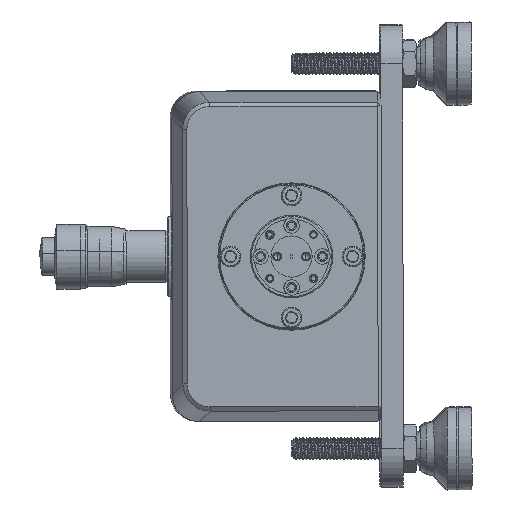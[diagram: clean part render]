
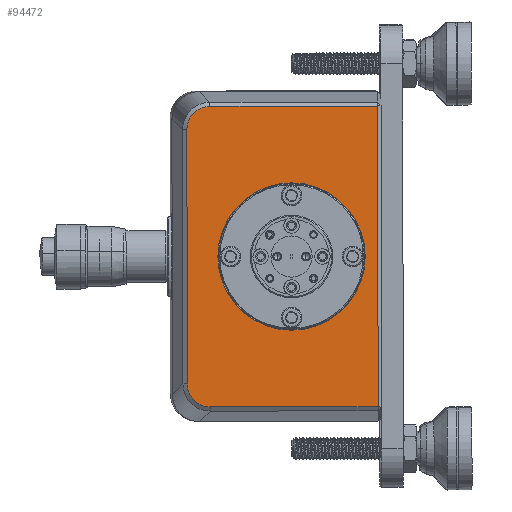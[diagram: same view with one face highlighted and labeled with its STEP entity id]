
A CAD part, left-side view. The second image highlights one B-rep face of the part: STEP entity #94472.
In plain terms, the highlighted planar face has unit normal (-1, -0.002, -0.001).
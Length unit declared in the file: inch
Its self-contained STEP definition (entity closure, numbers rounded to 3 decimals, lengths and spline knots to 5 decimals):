
#3372 = CARTESIAN_POINT ( 'NONE',  ( -3.34267, -7.61784, -1.98819 ) ) ;
#3522 = CARTESIAN_POINT ( 'NONE',  ( -3.34394, -7.4802, 0.04671 ) ) ;
#5768 = EDGE_CURVE ( 'NONE', #33444, #37405, #110016, .T. ) ;
#12760 = DIRECTION ( 'NONE',  ( -0.001, 0.001, 1. ) ) ;
#13592 = CARTESIAN_POINT ( 'NONE',  ( -3.34504, -6.76862, 0.01956 ) ) ;
#15231 = FACE_OUTER_BOUND ( 'NONE', #142939, .T. ) ;
#15485 = AXIS2_PLACEMENT_3D ( 'NONE', #53995, #43103, #142487 ) ;
#16901 = CARTESIAN_POINT ( 'NONE',  ( -3.34511, -6.70695, -0.03451 ) ) ;
#21830 = CARTESIAN_POINT ( 'NONE',  ( -3.34347, -6.87759, -2.68423 ) ) ;
#23936 = VECTOR ( 'NONE', #79316, 39.37008 ) ;
#26039 = ORIENTED_EDGE ( 'NONE', *, *, #129776, .T. ) ;
#26443 = CARTESIAN_POINT ( 'NONE',  ( -3.34377, -6.71028, -2.60422 ) ) ;
#30333 = B_SPLINE_CURVE_WITH_KNOTS ( 'NONE', 3,
 ( #116406, #131352, #54575, #13592, #66334, #16901, #154792, #40394, #67958, #91367 ),
 .UNSPECIFIED., .F., .F.,
 ( 4, 2, 2, 2, 4 ),
 ( 0., 0.25, 0.5, 0.75, 1. ),
 .UNSPECIFIED. ) ;
#32568 = DIRECTION ( 'NONE',  ( -0.001, 0.001, 1. ) ) ;
#33264 = VERTEX_POINT ( 'NONE', #21830 ) ;
#33444 = VERTEX_POINT ( 'NONE', #3372 ) ;
#35079 = CARTESIAN_POINT ( 'NONE',  ( -3.34387, -6.6739, -2.53056 ) ) ;
#37405 = VERTEX_POINT ( 'NONE', #63195 ) ;
#37959 = EDGE_LOOP ( 'NONE', ( #86259, #70111 ) ) ;
#38382 = LINE ( 'NONE', #50927, #23936 ) ;
#40394 = CARTESIAN_POINT ( 'NONE',  ( -3.34513, -6.67076, -0.10827 ) ) ;
#43103 = DIRECTION ( 'NONE',  ( -1., -0.002, -0.001 ) ) ;
#44441 = PLANE ( 'NONE',  #120423 ) ;
#47584 = CARTESIAN_POINT ( 'NONE',  ( -3.34347, -6.87759, -2.68423 ) ) ;
#48408 = CARTESIAN_POINT ( 'NONE',  ( -3.34389, -6.66843, -2.50307 ) ) ;
#49242 = CARTESIAN_POINT ( 'NONE',  ( -3.34369, -6.74883, -2.64268 ) ) ;
#50927 = CARTESIAN_POINT ( 'NONE',  ( -3.34451, -6.6669, -1.31942 ) ) ;
#53245 = VECTOR ( 'NONE', #113479, 39.37008 ) ;
#53995 = CARTESIAN_POINT ( 'NONE',  ( -3.34302, -7.61697, -1.31819 ) ) ;
#54575 = CARTESIAN_POINT ( 'NONE',  ( -3.34498, -6.81907, 0.04042 ) ) ;
#60021 = VERTEX_POINT ( 'NONE', #105853 ) ;
#60170 = CARTESIAN_POINT ( 'NONE',  ( -3.34391, -6.6684, -2.47558 ) ) ;
#63195 = CARTESIAN_POINT ( 'NONE',  ( -3.34337, -7.6161, -0.64819 ) ) ;
#66307 = FACE_BOUND ( 'NONE', #37959, .T. ) ;
#66334 = CARTESIAN_POINT ( 'NONE',  ( -3.34507, -6.74541, 0.00403 ) ) ;
#67958 = CARTESIAN_POINT ( 'NONE',  ( -3.34512, -6.66536, -0.13572 ) ) ;
#70111 = ORIENTED_EDGE ( 'NONE', *, *, #5768, .F. ) ;
#77175 = CARTESIAN_POINT ( 'NONE',  ( -3.34109, -8.40374, -2.68225 ) ) ;
#79316 = DIRECTION ( 'NONE',  ( 0.001, -0.001, -1. ) ) ;
#79688 = ORIENTED_EDGE ( 'NONE', *, *, #139355, .T. ) ;
#80096 = VECTOR ( 'NONE', #154784, 39.37008 ) ;
#81259 = DIRECTION ( 'NONE',  ( 0.001, -0.001, -1. ) ) ;
#81458 = LINE ( 'NONE', #119040, #53245 ) ;
#86259 = ORIENTED_EDGE ( 'NONE', *, *, #101676, .F. ) ;
#91367 = CARTESIAN_POINT ( 'NONE',  ( -3.34511, -6.6654, -0.16327 ) ) ;
#94472 = ADVANCED_FACE ( 'NONE', ( #15231, #66307 ), #44441, .F. ) ;
#101676 = EDGE_CURVE ( 'NONE', #37405, #33444, #162533, .T. ) ;
#105824 = CARTESIAN_POINT ( 'NONE',  ( -3.34391, -6.6684, -2.47558 ) ) ;
#105853 = CARTESIAN_POINT ( 'NONE',  ( -3.34511, -6.6654, -0.16327 ) ) ;
#106605 = VECTOR ( 'NONE', #32568, 39.37008 ) ;
#107093 = EDGE_CURVE ( 'NONE', #113237, #135148, #118058, .T. ) ;
#107184 = ORIENTED_EDGE ( 'NONE', *, *, #121051, .T. ) ;
#110016 = CIRCLE ( 'NONE', #160644, 0.67 ) ;
#111092 = CARTESIAN_POINT ( 'NONE',  ( -3.34351, -6.85004, -2.68427 ) ) ;
#113237 = VERTEX_POINT ( 'NONE', #145981 ) ;
#113479 = DIRECTION ( 'NONE',  ( 0.002, -1., 0.001 ) ) ;
#113912 = CARTESIAN_POINT ( 'NONE',  ( -3.34302, -7.61697, -1.31819 ) ) ;
#116406 = CARTESIAN_POINT ( 'NONE',  ( -3.34489, -6.87405, 0.04592 ) ) ;
#118031 = CARTESIAN_POINT ( 'NONE',  ( -3.34323, -7.48197, -1.31837 ) ) ;
#118058 = LINE ( 'NONE', #3522, #80096 ) ;
#118587 = VERTEX_POINT ( 'NONE', #105824 ) ;
#119040 = CARTESIAN_POINT ( 'NONE',  ( -3.34252, -7.48374, -2.68344 ) ) ;
#120423 = AXIS2_PLACEMENT_3D ( 'NONE', #118031, #130506, #81259 ) ;
#121051 = EDGE_CURVE ( 'NONE', #60021, #118587, #38382, .T. ) ;
#123280 = VERTEX_POINT ( 'NONE', #77175 ) ;
#128352 = CARTESIAN_POINT ( 'NONE',  ( -3.34356, -6.82259, -2.67887 ) ) ;
#129776 = EDGE_CURVE ( 'NONE', #33264, #123280, #81458, .T. ) ;
#130506 = DIRECTION ( 'NONE',  ( 1., 0.002, 0.001 ) ) ;
#130649 = ORIENTED_EDGE ( 'NONE', *, *, #144616, .T. ) ;
#131137 = CARTESIAN_POINT ( 'NONE',  ( -3.3418, -8.40197, -1.31717 ) ) ;
#131352 = CARTESIAN_POINT ( 'NONE',  ( -3.34494, -6.84656, 0.04589 ) ) ;
#132124 = EDGE_CURVE ( 'NONE', #118587, #33264, #155683, .T. ) ;
#135148 = VERTEX_POINT ( 'NONE', #142105 ) ;
#137105 = ORIENTED_EDGE ( 'NONE', *, *, #107093, .T. ) ;
#137808 = CARTESIAN_POINT ( 'NONE',  ( -3.34365, -6.77209, -2.65813 ) ) ;
#139355 = EDGE_CURVE ( 'NONE', #135148, #60021, #30333, .T. ) ;
#140753 = ORIENTED_EDGE ( 'NONE', *, *, #132124, .T. ) ;
#142105 = CARTESIAN_POINT ( 'NONE',  ( -3.34489, -6.87405, 0.04592 ) ) ;
#142487 = DIRECTION ( 'NONE',  ( -0.001, 0.001, 1. ) ) ;
#142939 = EDGE_LOOP ( 'NONE', ( #140753, #26039, #130649, #137105, #79688, #107184 ) ) ;
#143708 = LINE ( 'NONE', #131137, #106605 ) ;
#144616 = EDGE_CURVE ( 'NONE', #123280, #113237, #143708, .T. ) ;
#145981 = CARTESIAN_POINT ( 'NONE',  ( -3.34251, -8.4002, 0.0479 ) ) ;
#153937 = DIRECTION ( 'NONE',  ( -1., -0.002, -0.001 ) ) ;
#154784 = DIRECTION ( 'NONE',  ( -0.002, 1., -0.001 ) ) ;
#154792 = CARTESIAN_POINT ( 'NONE',  ( -3.34512, -6.6915, -0.05777 ) ) ;
#155683 = B_SPLINE_CURVE_WITH_KNOTS ( 'NONE', 3,
 ( #60170, #48408, #35079, #163667, #26443, #49242, #137808, #128352, #111092, #47584 ),
 .UNSPECIFIED., .F., .F.,
 ( 4, 2, 2, 2, 4 ),
 ( 0., 0.25, 0.5, 0.75, 1. ),
 .UNSPECIFIED. ) ;
#160644 = AXIS2_PLACEMENT_3D ( 'NONE', #113912, #153937, #12760 ) ;
#162533 = CIRCLE ( 'NONE', #15485, 0.67 ) ;
#163667 = CARTESIAN_POINT ( 'NONE',  ( -3.34381, -6.69476, -2.58101 ) ) ;
